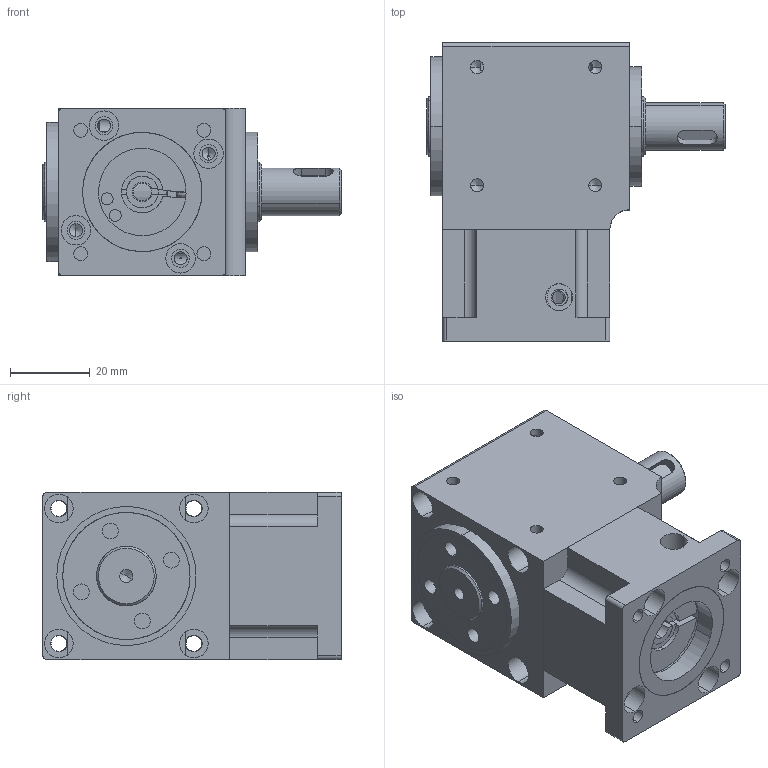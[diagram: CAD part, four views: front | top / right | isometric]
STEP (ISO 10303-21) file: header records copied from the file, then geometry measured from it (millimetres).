
FILE_DESCRIPTION (( 'STEP AP203' ), '1' );
FILE_NAME ('×°ÅäÌå2.STEP', '2025-10-18T03:46:11', ( 'Microsoft' ), ( 'JSSM8' ), 'SwSTEP 2.0', 'SolidWorks 2015', '' );
FILE_SCHEMA (( 'CONFIG_CONTROL_DESIGN' ));
Length unit declared in the file: millimetre
Products named in the file (14): 蹟譫ㄗ2ㄘ; 標杶ㄗ1ㄘ; 怀堤粣ㄗ等粣ㄘ; 61902_Rolling bearings 61902 GB 276-94; 褲极; 蹟譫; 6002_Rolling bearings 6002 GB 276-94; 6001_Rolling bearings 6001 GB 276-94; PVFD040-L1-()-P()-5-22-3.5-43.8单轴（配42步进尺寸）; 蚾饜极2; 砦諳30-22; 8-5粣杶; 綴楊擘ㄗ祭輛ㄘ; 输入轴
Assembly tree (13 placements, depth 3):
  蚾饜极2
    PVFD040-L1-()-P()-5-22-3.5-43.8单轴（配42步进尺寸）
      褲极
      怀堤粣ㄗ等粣ㄘ
      输入轴
      蹟譫
      蹟譫ㄗ2ㄘ
      標杶ㄗ1ㄘ
      6001_Rolling bearings 6001 GB 276-94
      6002_Rolling bearings 6002 GB 276-94
      61902_Rolling bearings 61902 GB 276-94
      綴楊擘ㄗ祭輛ㄘ
      8-5粣杶
    砦諳30-22
Bounding box: 75 x 75 x 42 mm (x, y, z)
Volume: 98997.6 mm3; surface area: 57646.7 mm2
Topology: 12 solids, 12 shells, 696 faces, 2105 edges, 1356 vertices
Faces by surface type: bspline 275, cylinder 252, plane 107, cone 62
Entity records: 32187 total; most frequent: CARTESIAN_POINT 13509, ORIENTED_EDGE 4142, DIRECTION 3056, EDGE_CURVE 2071, VERTEX_POINT 1356, AXIS2_PLACEMENT_3D 1321, CIRCLE 883, EDGE_LOOP 831
